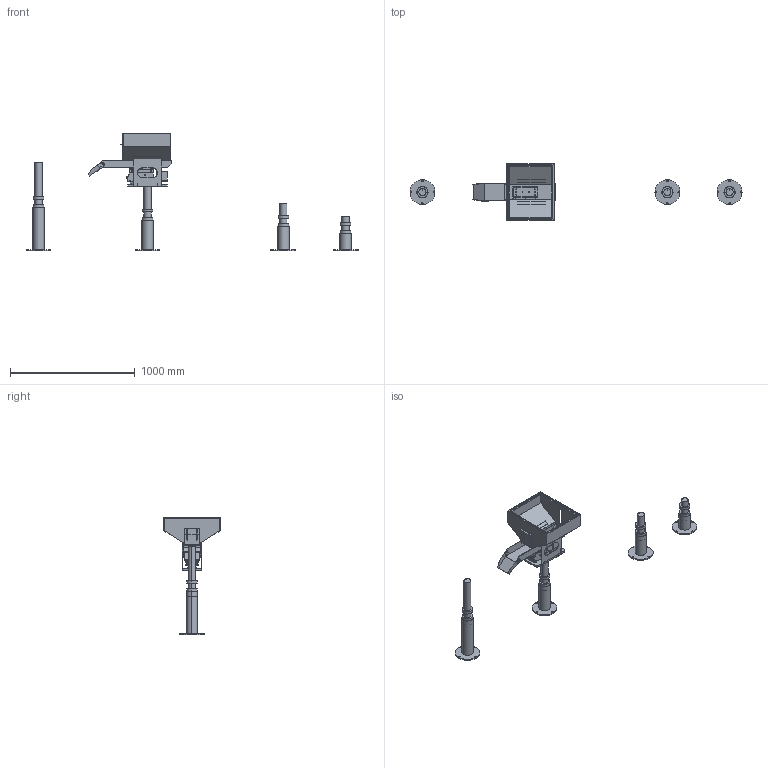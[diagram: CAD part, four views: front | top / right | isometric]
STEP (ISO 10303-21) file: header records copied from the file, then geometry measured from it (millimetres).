
FILE_DESCRIPTION (( 'STEP AP203' ), '1' );
FILE_NAME ('450 蹋累 盓翐恁倰.STEP', '2025-07-11T08:49:12', ( '' ), ( '' ), 'SwSTEP 2.0', 'SolidWorks 2022', '' );
FILE_SCHEMA (( 'CONFIG_CONTROL_DESIGN' ));
Length unit declared in the file: millimetre
Products named in the file (1): 450  蹋累  盓翐恁倰
Bounding box: 2660.64 x 450 x 944.83 mm (x, y, z)
Surface area: 2960455.6 mm2 (no closed solid volume)
Topology: 0 solids, 83 shells, 1129 faces, 2829 edges, 1902 vertices
Faces by surface type: plane 596, cylinder 461, bspline 64, cone 8
Entity records: 46345 total; most frequent: CARTESIAN_POINT 23961, ORIENTED_EDGE 5634, EDGE_CURVE 2821, DIRECTION 2710, B_SPLINE_CURVE_WITH_KNOTS 2264, VERTEX_POINT 1902, EDGE_LOOP 1465, AXIS2_PLACEMENT_3D 1294
